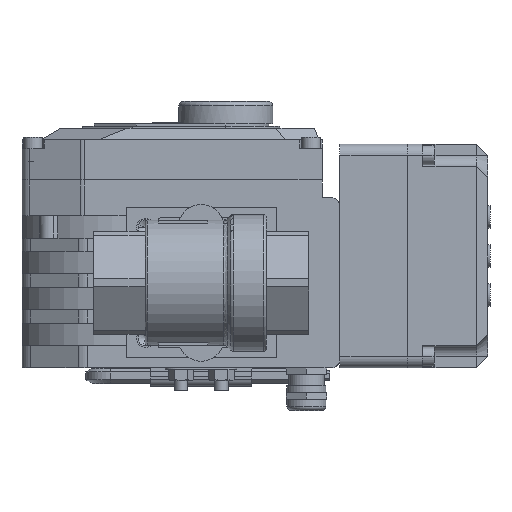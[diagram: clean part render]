
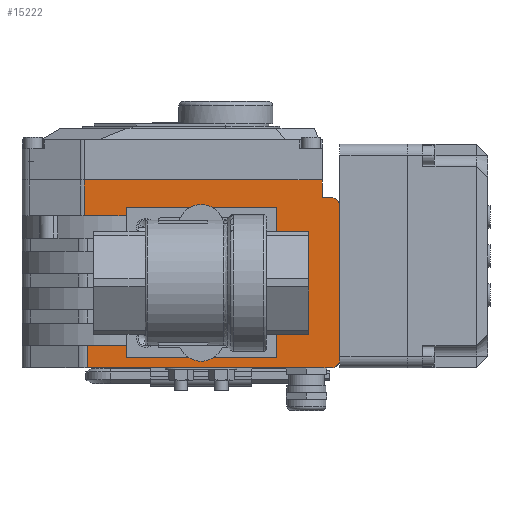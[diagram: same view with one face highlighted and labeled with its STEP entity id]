
A CAD part, front view. The second image highlights one B-rep face of the part: STEP entity #15222.
In plain terms, the highlighted planar face has unit normal (0, -1, 0).
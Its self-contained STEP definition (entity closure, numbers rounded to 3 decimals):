
#10195=DIRECTION('',(1.,0.,0.));
#10196=VECTOR('',#10195,108.749);
#10197=CARTESIAN_POINT('',(-47.,-36.5,0.));
#10198=LINE('',#10197,#10196);
#10622=DIRECTION('',(-1.,0.,0.));
#10623=VECTOR('',#10622,18.604);
#10624=CARTESIAN_POINT('',(63.104,-36.5,-68.));
#10625=LINE('',#10624,#10623);
#10882=DIRECTION('',(0.,0.,1.));
#10883=VECTOR('',#10882,16.);
#10884=CARTESIAN_POINT('',(63.104,-36.5,-84.));
#10885=LINE('',#10884,#10883);
#10886=DIRECTION('',(-1.,0.,0.));
#10887=VECTOR('',#10886,106.104);
#10888=CARTESIAN_POINT('',(63.104,-36.5,-84.));
#10889=LINE('',#10888,#10887);
#10890=CARTESIAN_POINT('',(-47.,-36.5,-72.));
#10891=DIRECTION('',(0.,-1.,0.));
#10892=DIRECTION('',(-1.,0.,0.));
#10893=AXIS2_PLACEMENT_3D('',#10890,#10891,#10892);
#10895=DIRECTION('',(0.,0.,-1.));
#10896=VECTOR('',#10895,68.);
#10897=CARTESIAN_POINT('',(-51.,-36.5,-4.));
#10898=LINE('',#10897,#10896);
#10899=CARTESIAN_POINT('',(-47.,-36.5,-4.));
#10900=DIRECTION('',(0.,-1.,0.));
#10901=DIRECTION('',(0.,0.,1.));
#10902=AXIS2_PLACEMENT_3D('',#10899,#10900,#10901);
#10904=DIRECTION('',(0.,0.,1.));
#10905=VECTOR('',#10904,10.);
#10906=CARTESIAN_POINT('',(61.749,-36.5,-10.));
#10907=LINE('',#10906,#10905);
#10908=DIRECTION('',(-1.,0.,0.));
#10909=VECTOR('',#10908,17.249);
#10910=CARTESIAN_POINT('',(61.749,-36.5,-10.));
#10911=LINE('',#10910,#10909);
#10912=DIRECTION('',(0.,0.,1.));
#10913=VECTOR('',#10912,5.5);
#10914=CARTESIAN_POINT('',(44.5,-36.5,-10.));
#10915=LINE('',#10914,#10913);
#10916=DIRECTION('',(-1.,0.,0.));
#10917=VECTOR('',#10916,67.);
#10918=CARTESIAN_POINT('',(44.5,-36.5,-4.5));
#10919=LINE('',#10918,#10917);
#10920=DIRECTION('',(0.,0.,-1.));
#10921=VECTOR('',#10920,67.);
#10922=CARTESIAN_POINT('',(-22.5,-36.5,-4.5));
#10923=LINE('',#10922,#10921);
#10924=DIRECTION('',(1.,0.,0.));
#10925=VECTOR('',#10924,67.);
#10926=CARTESIAN_POINT('',(-22.5,-36.5,-71.5));
#10927=LINE('',#10926,#10925);
#10928=DIRECTION('',(0.,0.,1.));
#10929=VECTOR('',#10928,3.5);
#10930=CARTESIAN_POINT('',(44.5,-36.5,-71.5));
#10931=LINE('',#10930,#10929);
#11221=DIRECTION('',(1.,0.,0.));
#11222=VECTOR('',#11221,4.);
#11223=CARTESIAN_POINT('',(-47.,-36.5,-76.));
#11224=LINE('',#11223,#11222);
#11257=DIRECTION('',(0.,0.,-1.));
#11258=VECTOR('',#11257,8.);
#11259=CARTESIAN_POINT('',(-43.,-36.5,-76.));
#11260=LINE('',#11259,#11258);
#13429=CARTESIAN_POINT('',(-43.,-36.5,-84.));
#13431=VERTEX_POINT('',#13429);
#13433=CARTESIAN_POINT('',(-43.,-36.5,-76.));
#13435=VERTEX_POINT('',#13433);
#13437=CARTESIAN_POINT('',(-47.,-36.5,0.));
#13438=CARTESIAN_POINT('',(-51.,-36.5,-4.));
#13439=VERTEX_POINT('',#13437);
#13440=VERTEX_POINT('',#13438);
#13449=CARTESIAN_POINT('',(-51.,-36.5,-72.));
#13450=CARTESIAN_POINT('',(-47.,-36.5,-76.));
#13451=VERTEX_POINT('',#13449);
#13452=VERTEX_POINT('',#13450);
#13481=CARTESIAN_POINT('',(61.749,-36.5,0.));
#13483=VERTEX_POINT('',#13481);
#13625=CARTESIAN_POINT('',(61.749,-36.5,-10.));
#13626=VERTEX_POINT('',#13625);
#13721=CARTESIAN_POINT('',(-22.5,-36.5,-4.5));
#13722=CARTESIAN_POINT('',(-22.5,-36.5,-71.5));
#13723=VERTEX_POINT('',#13721);
#13724=VERTEX_POINT('',#13722);
#13725=CARTESIAN_POINT('',(44.5,-36.5,-71.5));
#13726=VERTEX_POINT('',#13725);
#13727=CARTESIAN_POINT('',(44.5,-36.5,-68.));
#13728=VERTEX_POINT('',#13727);
#13741=CARTESIAN_POINT('',(44.5,-36.5,-10.));
#13742=CARTESIAN_POINT('',(44.5,-36.5,-4.5));
#13743=VERTEX_POINT('',#13741);
#13744=VERTEX_POINT('',#13742);
#14417=CARTESIAN_POINT('',(63.104,-36.5,-68.));
#14419=VERTEX_POINT('',#14417);
#14423=CARTESIAN_POINT('',(63.104,-36.5,-84.));
#14424=VERTEX_POINT('',#14423);
#15187=CARTESIAN_POINT('',(-51.,-36.5,0.));
#15188=DIRECTION('',(0.,-1.,0.));
#15189=DIRECTION('',(1.,0.,0.));
#15190=AXIS2_PLACEMENT_3D('',#15187,#15188,#15189);
#15191=PLANE('',#15190);
#15193=ORIENTED_EDGE('',*,*,#15192,.F.);
#15195=ORIENTED_EDGE('',*,*,#15194,.T.);
#15197=ORIENTED_EDGE('',*,*,#15196,.F.);
#15199=ORIENTED_EDGE('',*,*,#15198,.F.);
#15201=ORIENTED_EDGE('',*,*,#15200,.F.);
#15203=ORIENTED_EDGE('',*,*,#15202,.F.);
#15204=ORIENTED_EDGE('',*,*,#15132,.F.);
#15205=ORIENTED_EDGE('',*,*,#14444,.T.);
#15207=ORIENTED_EDGE('',*,*,#15206,.F.);
#15208=ORIENTED_EDGE('',*,*,#14586,.T.);
#15210=ORIENTED_EDGE('',*,*,#15209,.T.);
#15212=ORIENTED_EDGE('',*,*,#15211,.T.);
#15214=ORIENTED_EDGE('',*,*,#15213,.T.);
#15216=ORIENTED_EDGE('',*,*,#15215,.T.);
#15218=ORIENTED_EDGE('',*,*,#15217,.T.);
#15219=ORIENTED_EDGE('',*,*,#14848,.F.);
#15220=EDGE_LOOP('',(#15193,#15195,#15197,#15199,#15201,#15203,#15204,#15205,
#15207,#15208,#15210,#15212,#15214,#15216,#15218,#15219));
#15221=FACE_OUTER_BOUND('',#15220,.F.);
#15222=ADVANCED_FACE('',(#15221),#15191,.T.);
#10894=CIRCLE('',#10893,4.);
#10903=CIRCLE('',#10902,4.);
#14444=EDGE_CURVE('',#13439,#13483,#10198,.T.);
#14586=EDGE_CURVE('',#13626,#13743,#10911,.T.);
#14848=EDGE_CURVE('',#14419,#13728,#10625,.T.);
#15132=EDGE_CURVE('',#13439,#13440,#10903,.T.);
#15192=EDGE_CURVE('',#14424,#14419,#10885,.T.);
#15194=EDGE_CURVE('',#14424,#13431,#10889,.T.);
#15196=EDGE_CURVE('',#13435,#13431,#11260,.T.);
#15198=EDGE_CURVE('',#13452,#13435,#11224,.T.);
#15200=EDGE_CURVE('',#13451,#13452,#10894,.T.);
#15202=EDGE_CURVE('',#13440,#13451,#10898,.T.);
#15206=EDGE_CURVE('',#13626,#13483,#10907,.T.);
#15209=EDGE_CURVE('',#13743,#13744,#10915,.T.);
#15211=EDGE_CURVE('',#13744,#13723,#10919,.T.);
#15213=EDGE_CURVE('',#13723,#13724,#10923,.T.);
#15215=EDGE_CURVE('',#13724,#13726,#10927,.T.);
#15217=EDGE_CURVE('',#13726,#13728,#10931,.T.);
